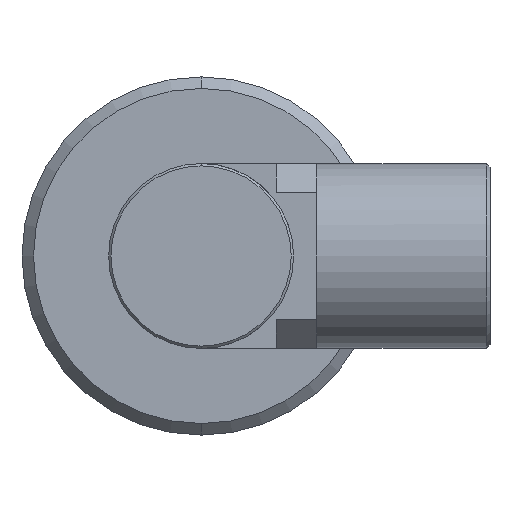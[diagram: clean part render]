
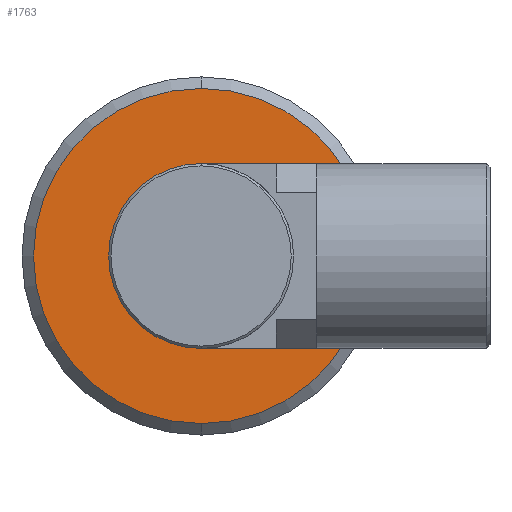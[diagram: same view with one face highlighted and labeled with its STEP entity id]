
A CAD part, left-side view. The second image highlights one B-rep face of the part: STEP entity #1763.
In plain terms, the highlighted planar face has unit normal (-1, 0, 0).
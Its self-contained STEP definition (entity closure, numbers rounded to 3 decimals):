
#63 = ORIENTED_EDGE ( 'NONE', *, *, #1097, .F. ) ;
#181 = DIRECTION ( 'NONE',  ( 0., 0., 1. ) ) ;
#203 = FACE_OUTER_BOUND ( 'NONE', #377, .T. ) ;
#212 = EDGE_CURVE ( 'NONE', #1187, #328, #1129, .T. ) ;
#255 = FACE_BOUND ( 'NONE', #442, .T. ) ;
#320 = CARTESIAN_POINT ( 'NONE',  ( -23.99, 0., 0. ) ) ;
#328 = VERTEX_POINT ( 'NONE', #1050 ) ;
#362 = AXIS2_PLACEMENT_3D ( 'NONE', #911, #1786, #181 ) ;
#377 = EDGE_LOOP ( 'NONE', ( #971, #1571 ) ) ;
#388 = CARTESIAN_POINT ( 'NONE',  ( -23.99, 0., 0. ) ) ;
#396 = EDGE_CURVE ( 'NONE', #328, #1187, #1372, .T. ) ;
#398 = CIRCLE ( 'NONE', #1611, 8. ) ;
#442 = EDGE_LOOP ( 'NONE', ( #63, #986 ) ) ;
#463 = DIRECTION ( 'NONE',  ( -1., 0., 0. ) ) ;
#468 = DIRECTION ( 'NONE',  ( 0., 0., 1. ) ) ;
#568 = DIRECTION ( 'NONE',  ( -1., 0., 0. ) ) ;
#576 = DIRECTION ( 'NONE',  ( 0., 0., 1. ) ) ;
#585 = PLANE ( 'NONE',  #1761 ) ;
#605 = DIRECTION ( 'NONE',  ( 1., 0., 0. ) ) ;
#639 = VERTEX_POINT ( 'NONE', #744 ) ;
#702 = DIRECTION ( 'NONE',  ( -1., 0., 0. ) ) ;
#703 = EDGE_CURVE ( 'NONE', #639, #1495, #398, .T. ) ;
#744 = CARTESIAN_POINT ( 'NONE',  ( -23.99, 0., -8. ) ) ;
#760 = AXIS2_PLACEMENT_3D ( 'NONE', #844, #568, #576 ) ;
#841 = DIRECTION ( 'NONE',  ( 0., 0., 1. ) ) ;
#844 = CARTESIAN_POINT ( 'NONE',  ( -23.99, 0., 0. ) ) ;
#849 = DIRECTION ( 'NONE',  ( 0., 0., -1. ) ) ;
#911 = CARTESIAN_POINT ( 'NONE',  ( -23.99, 0., 0. ) ) ;
#971 = ORIENTED_EDGE ( 'NONE', *, *, #396, .T. ) ;
#986 = ORIENTED_EDGE ( 'NONE', *, *, #703, .F. ) ;
#1050 = CARTESIAN_POINT ( 'NONE',  ( -23.99, 0., -14.5 ) ) ;
#1097 = EDGE_CURVE ( 'NONE', #1495, #639, #1536, .T. ) ;
#1129 = CIRCLE ( 'NONE', #362, 14.5 ) ;
#1187 = VERTEX_POINT ( 'NONE', #1602 ) ;
#1372 = CIRCLE ( 'NONE', #760, 14.5 ) ;
#1375 = CARTESIAN_POINT ( 'NONE',  ( -23.99, 0., 8. ) ) ;
#1436 = AXIS2_PLACEMENT_3D ( 'NONE', #388, #702, #841 ) ;
#1445 = CARTESIAN_POINT ( 'NONE',  ( -23.99, 8., 0. ) ) ;
#1495 = VERTEX_POINT ( 'NONE', #1375 ) ;
#1536 = CIRCLE ( 'NONE', #1436, 8. ) ;
#1571 = ORIENTED_EDGE ( 'NONE', *, *, #212, .T. ) ;
#1602 = CARTESIAN_POINT ( 'NONE',  ( -23.99, 0., 14.5 ) ) ;
#1611 = AXIS2_PLACEMENT_3D ( 'NONE', #320, #463, #468 ) ;
#1761 = AXIS2_PLACEMENT_3D ( 'NONE', #1445, #605, #849 ) ;
#1763 = ADVANCED_FACE ( 'NONE', ( #255, #203 ), #585, .F. ) ;
#1786 = DIRECTION ( 'NONE',  ( -1., 0., 0. ) ) ;
